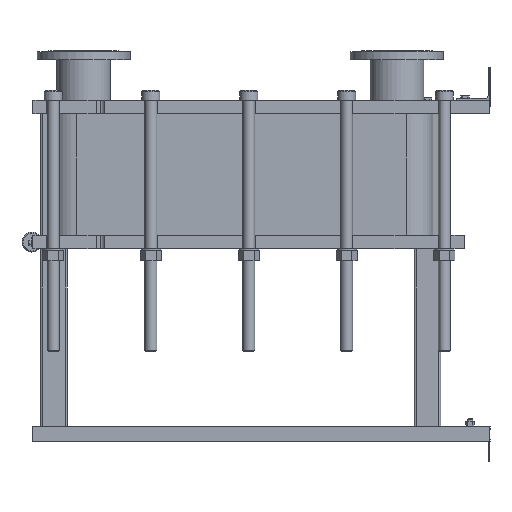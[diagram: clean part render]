
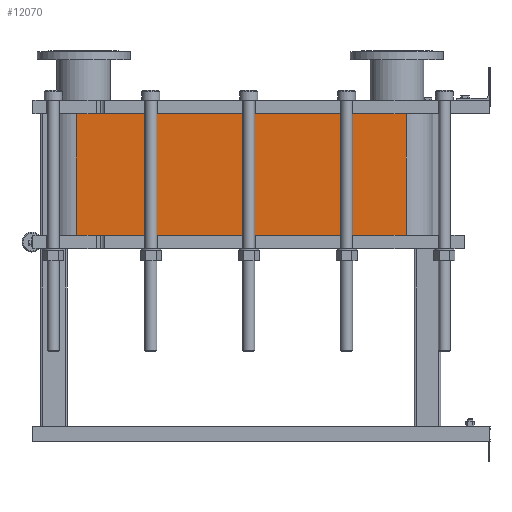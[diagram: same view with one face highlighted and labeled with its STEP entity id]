
A CAD part, left-side view. The second image highlights one B-rep face of the part: STEP entity #12070.
In plain terms, the highlighted planar face has unit normal (-1, 0, 0).
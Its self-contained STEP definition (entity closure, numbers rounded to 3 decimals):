
#1064=LINE('',#21140,#2164);
#1065=LINE('',#21144,#2165);
#1066=LINE('',#21146,#2166);
#1067=LINE('',#21147,#2167);
#2164=VECTOR('',#15790,10.);
#2165=VECTOR('',#15795,10.);
#2166=VECTOR('',#15796,10.);
#2167=VECTOR('',#15797,10.);
#3304=FACE_OUTER_BOUND('',#4091,.T.);
#4091=EDGE_LOOP('',(#9793,#9794,#9795,#9796));
#5677=VERTEX_POINT('',#21137);
#5678=VERTEX_POINT('',#21139);
#5679=VERTEX_POINT('',#21143);
#5680=VERTEX_POINT('',#21145);
#7118=EDGE_CURVE('',#5678,#5677,#1064,.T.);
#7120=EDGE_CURVE('',#5677,#5679,#1065,.T.);
#7121=EDGE_CURVE('',#5680,#5679,#1066,.T.);
#7122=EDGE_CURVE('',#5680,#5678,#1067,.T.);
#9793=ORIENTED_EDGE('',*,*,#7120,.T.);
#9794=ORIENTED_EDGE('',*,*,#7121,.F.);
#9795=ORIENTED_EDGE('',*,*,#7122,.T.);
#9796=ORIENTED_EDGE('',*,*,#7118,.T.);
#11441=PLANE('',#13191);
#12070=ADVANCED_FACE('',(#3304),#11441,.T.);
#13191=AXIS2_PLACEMENT_3D('',#21142,#15793,#15794);
#15790=DIRECTION('',(0.,0.,-1.));
#15793=DIRECTION('center_axis',(-1.,0.,0.));
#15794=DIRECTION('ref_axis',(0.,1.,0.));
#15795=DIRECTION('',(0.,-1.,0.));
#15796=DIRECTION('',(0.,0.,-1.));
#15797=DIRECTION('',(0.,1.,0.));
#21137=CARTESIAN_POINT('',(-248.152,1243.818,-365.7));
#21139=CARTESIAN_POINT('',(-248.152,1243.818,0.));
#21140=CARTESIAN_POINT('',(-248.152,1243.818,0.));
#21142=CARTESIAN_POINT('Origin',(-248.152,251.818,0.));
#21143=CARTESIAN_POINT('',(-248.152,251.818,-365.7));
#21144=CARTESIAN_POINT('',(-248.152,499.818,-365.7));
#21145=CARTESIAN_POINT('',(-248.152,251.818,0.));
#21146=CARTESIAN_POINT('',(-248.152,251.818,0.));
#21147=CARTESIAN_POINT('',(-248.152,251.818,0.));
